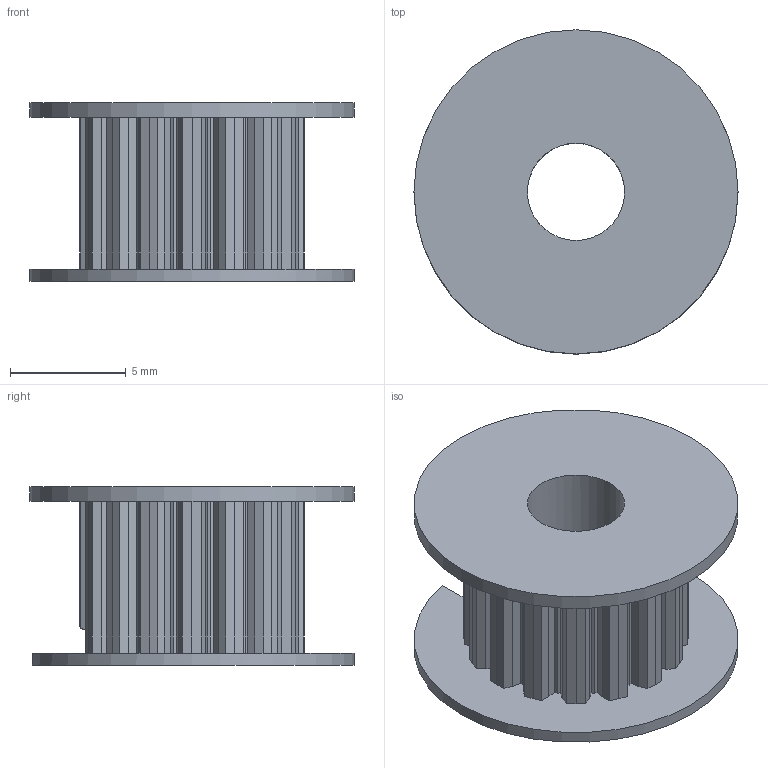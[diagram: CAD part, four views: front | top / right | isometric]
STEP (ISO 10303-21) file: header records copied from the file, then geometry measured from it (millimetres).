
FILE_DESCRIPTION(('Open CASCADE Model'),'2;1');
FILE_NAME('Open CASCADE Shape Model','2026-11-01T16:34:14',('Author'),( 'Open CASCADE'),'Open CASCADE STEP processor 8.0','build123d', 'Unknown');
FILE_SCHEMA(('AUTOMOTIVE_DESIGN { 1 0 10303 214 1 1 1 1 }'));
Length unit declared in the file: millimetre
Products named in the file (1): SOLID
Bounding box: 14 x 14 x 7.7 mm (x, y, z)
Volume: 491.7 mm3; surface area: 887.6 mm2
Topology: 1 solids, 1 shells, 136 faces, 402 edges, 268 vertices
Faces by surface type: plane 132, cylinder 4
Full cylindrical faces by diameter (mm): 4.2 x1, 14 x1
Entity records: 9532 total; most frequent: CARTESIAN_POINT 2474, DIRECTION 982, ORIENTED_EDGE 804, PCURVE 804, DEFINITIONAL_REPRESENTATION 804, LINE 645, VECTOR 645, B_SPLINE_CURVE_WITH_KNOTS 519
